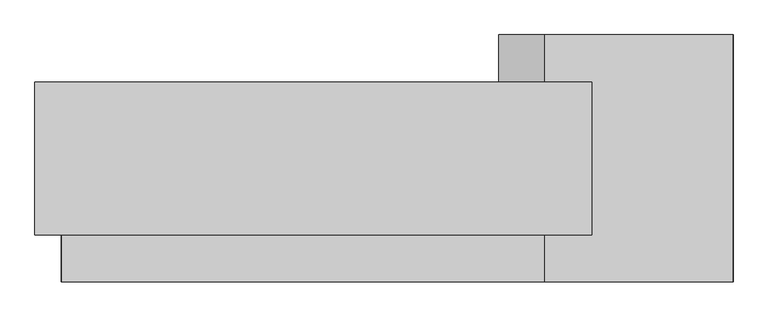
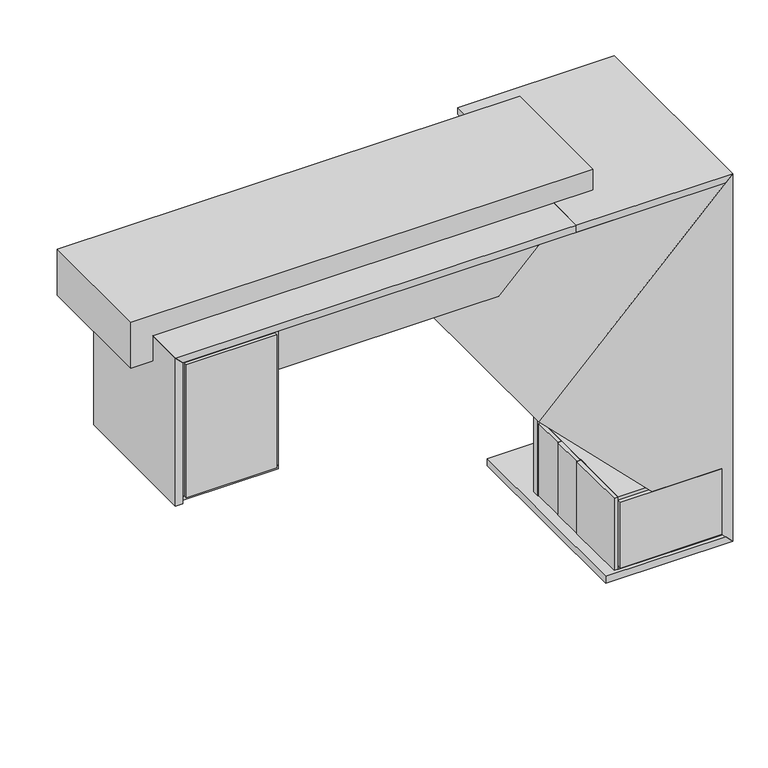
"""IFC4 building model written with IfcOpenShell, lengths in millimetres: proxy geometry, SALUTE^RECEPT 7_SHORT TRANS L-SHAPE-PARTS SOLID."""

from ifc_helpers import new_model, si_unit, frame, origin, place, context, project, spatial, polyline, outline, extrude, faceted_brep, source, transform, mapped, element, save


def generic_models_22d0e814(model_context):
    return source(origin(), model_context, "Body", "SolidModel", [
        extrude(outline(polyline([(-609.6, 698.5), (-609.6, 736.6), (-38.1, 736.6), (-38.1, 698.5), (-609.6, 698.5)])), frame((0.0, 0.0, -1981.2), z_axis=(0.0, 0.0, 1.0), x_axis=(1.0, 0.0, 0.0)), (0.0, 0.0, 1.0), 1943.1),
        faceted_brep([(-1765.3, 736.6, 0.0), (-1765.3, 736.6, -133.35), (-1733.55, 736.6, -133.35), (-1733.55, 736.6, 0.0), (-641.35, 736.6, 0.0), (-609.6, 736.6, 0.0), (-609.6, 736.6, -812.8), (-2895.6, 736.6, -812.8), (-2895.6, 736.6, 0.0), (-2857.5, 736.6, 0.0), (-2857.5, 698.5, -38.1), (-2857.5, 698.5, -812.8), (-609.6, 698.5, -812.8), (-609.6, 698.5, -38.1), (-1733.55, 831.85, 0.0), (-1733.55, 831.85, -133.35), (-1765.3, 831.85, 0.0), (-1765.3, 831.85, -133.35), (-641.35, 831.85, 0.0), (-641.35, 736.6, 0.0), (-641.35, 222.25, 0.0), (-2857.5, 222.25, 0.0), (-2857.5, 736.6, 0.0), (-2857.5, 222.25, 31.75), (-641.35, 222.25, 31.75), (-2857.5, 831.85, 0.0), (-2857.5, 831.85, 31.75), (-641.35, 831.85, 31.75)], [[[0, 1, 2, 3, 4, 5, 6, 7, 8, 9]], [[10, 11, 12, 13]], [[14, 3, 2, 15]], [[0, 16, 17, 1]], [[2, 1, 17, 15]], [[3, 14, 18, 19]], [[3, 19, 20, 21, 22, 0]], [[23, 21, 20, 24]], [[16, 0, 22, 25]], [[25, 26, 27, 18, 14, 15, 17, 16]], [[26, 23, 24, 27]], [[24, 20, 19, 18, 27]], [[25, 22, 21, 23, 26]], [[7, 11, 10, 8]], [[8, 10, 13, 5, 4, 3, 0, 9]], [[5, 13, 12, 6]], [[11, 7, 6, 12]]]),
        extrude(outline(polyline([(-587.375, 696.11875), (-587.375, 526.653125), (-606.425, 526.653125), (-606.425, 696.11875), (-587.375, 696.11875)])), frame((0.0, 0.0, -1978.81875), z_axis=(0.0, 0.0, 1.0), x_axis=(1.0, 0.0, 0.0)), (0.0, 0.0, 1.0), 395.2875),
        extrude(outline(polyline([(-38.1, 698.5), (-38.1, 19.05), (-584.2, 19.05), (-584.2, 698.5), (-38.1, 698.5)])), frame((0.0, 0.0, -1981.2), z_axis=(0.0, 0.0, 1.0), x_axis=(1.0, 0.0, 0.0)), (0.0, 0.0, 1.0), 19.05),
        extrude(outline(polyline([(-587.375, 352.425), (-587.375, 19.05), (-606.425, 19.05), (-606.425, 352.425), (-587.375, 352.425)])), frame((0.0, 0.0, -1978.81875), z_axis=(0.0, 0.0, 1.0), x_axis=(1.0, 0.0, 0.0)), (0.0, 0.0, 1.0), 395.2875),
        extrude(outline(polyline([(-2838.45, 698.5), (-2368.55, 698.5), (-2368.55, 679.45), (-2838.45, 679.45), (-2838.45, 698.5)])), frame((0.0, 0.0, -787.4), z_axis=(0.0, 0.0, 1.0), x_axis=(1.0, 0.0, 0.0)), (0.0, 0.0, 1.0), 730.25),
        extrude(outline(polyline([(-2368.55, 38.1), (-2368.55, 0.0), (-2838.45, 0.0), (-2838.45, 38.1), (-2368.55, 38.1)])), frame((0.0, 0.0, -787.4), z_axis=(0.0, 0.0, 1.0), x_axis=(1.0, 0.0, 0.0)), (0.0, 0.0, 1.0), 730.25),
        extrude(outline(polyline([(-584.2, 0.0), (-584.2, 38.1), (-57.15, 38.1), (-57.15, 0.0), (-584.2, 0.0)])), frame((0.0, 0.0, -1962.15), z_axis=(0.0, 0.0, 1.0), x_axis=(1.0, 0.0, 0.0)), (0.0, 0.0, 1.0), 361.95),
        extrude(outline(polyline([(-2838.45, 19.05), (-2857.5, 19.05), (-2857.5, 698.5), (-2838.45, 698.5), (-2838.45, 19.05)])), frame((0.0, 0.0, -787.4), z_axis=(0.0, 0.0, 1.0), x_axis=(1.0, 0.0, 0.0)), (0.0, 0.0, 1.0), 749.3),
        faceted_brep([(-2895.6, 0.0, 0.0), (-2895.6, 736.6, 0.0), (-2895.6, 736.6, -812.8), (-2895.6, 0.0, -812.8), (-2857.5, 698.5, -38.1), (-2857.5, 698.5, -812.8), (-2857.5, 0.0, -38.1), (-2857.5, 0.0, -812.8)], [[[0, 1, 2, 3]], [[1, 4, 5, 2]], [[4, 6, 7, 5]], [[6, 0, 3, 7]], [[3, 2, 5, 7]], [[4, 1, 0, 6]]]),
        extrude(outline(polyline([(-587.375, 524.271875), (-587.375, 354.80625), (-606.425, 354.80625), (-606.425, 524.271875), (-587.375, 524.271875)])), frame((0.0, 0.0, -1978.81875), z_axis=(0.0, 0.0, 1.0), x_axis=(1.0, 0.0, 0.0)), (0.0, 0.0, 1.0), 395.2875),
        extrude(outline(polyline([(0.0, -812.8), (-38.1, -812.8), (-38.1, -38.1), (0.0, 0.0), (0.0, -812.8)])), frame((0.0, 0.0, 0.0), z_axis=(0.0, 1.0, 0.0), x_axis=(0.0, 0.0, 1.0)), (0.0, 0.0, 1.0), 1066.8),
        extrude(outline(polyline([(-609.6, 863.6), (-609.6, 203.2), (-3009.9, 203.2), (-3009.9, 863.6), (-609.6, 863.6)])), frame((0.0, 0.0, -139.7), z_axis=(0.0, 0.0, 1.0), x_axis=(1.0, 0.0, 0.0)), (0.0, 0.0, 1.0), 254.0),
        extrude(outline(polyline([(-584.2, 679.45), (-584.2, 698.5), (-57.15, 698.5), (-57.15, 679.45), (-584.2, 679.45)])), frame((0.0, 0.0, -1962.15), z_axis=(0.0, 0.0, 1.0), x_axis=(1.0, 0.0, 0.0)), (0.0, 0.0, 1.0), 361.95),
        extrude(outline(polyline([(-2368.55, 19.05), (-2368.55, 698.5), (-2349.5, 698.5), (-2349.5, 19.05), (-2368.55, 19.05)])), frame((0.0, 0.0, -787.4), z_axis=(0.0, 0.0, 1.0), x_axis=(1.0, 0.0, 0.0)), (0.0, 0.0, 1.0), 749.3),
        extrude(outline(polyline([(-2351.88125, 19.05), (-2855.11875, 19.05), (-2855.11875, 696.11875), (-2351.88125, 696.11875), (-2351.88125, 19.05)])), frame((0.0, 0.0, -809.625), z_axis=(0.0, 0.0, 1.0), x_axis=(1.0, 0.0, 0.0)), (0.0, 0.0, 1.0), 19.05),
        extrude(outline(polyline([(-38.1, 698.5), (-38.1, 19.05), (-584.2, 19.05), (-584.2, 698.5), (-38.1, 698.5)])), frame((0.0, 0.0, -1600.2), z_axis=(0.0, 0.0, 1.0), x_axis=(1.0, 0.0, 0.0)), (0.0, 0.0, 1.0), 19.05),
        faceted_brep([(-2857.5, 0.0, -38.1), (-2895.6, 0.0, 0.0), (-2895.6, 736.6, 0.0), (-2857.5, 698.5, -38.1), (-609.6, 698.5, -38.1), (-609.6, 0.0, -38.1), (-609.6, 736.6, 0.0), (-609.6, 0.0, 0.0)], [[[0, 1, 2, 3]], [[0, 3, 4, 5]], [[3, 2, 6, 4]], [[7, 6, 2, 1]], [[1, 0, 5, 7]], [[7, 5, 4, 6]]]),
        extrude(outline(polyline([(-1981.2, -660.4), (-2019.3, -660.4), (-2019.3, 0.0), (-1981.2, -38.1), (-1981.2, -660.4)])), frame((0.0, 0.0, 0.0), z_axis=(0.0, 1.0, 0.0), x_axis=(0.0, 0.0, 1.0)), (0.0, 0.0, 1.0), 1066.8),
        extrude(outline(polyline([(-2838.45, 19.05), (-2838.45, 698.5), (-2368.55, 698.5), (-2368.55, 19.05), (-2838.45, 19.05)])), frame((0.0, 0.0, -57.15), z_axis=(0.0, 0.0, 1.0), x_axis=(1.0, 0.0, 0.0)), (0.0, 0.0, 1.0), 19.05),
        extrude(outline(polyline([(-1009.65, -1009.65), (-2019.3, 0.0), (0.0, 0.0), (-1009.65, -1009.65)])), frame((0.0, 0.0, 0.0), z_axis=(0.0, 1.0, 0.0), x_axis=(0.0, 0.0, 1.0)), (0.0, 0.0, 1.0), 1066.8),
    ])


if __name__ == "__main__":
    model = new_model("IFC4")
    model_context = context("Model", 3, world=origin())
    ifc_project = project(units=[si_unit("LENGTHUNIT", "METRE", prefix="MILLI")], contexts=[model_context])
    site = spatial("IfcSite", under=ifc_project)
    building = spatial("IfcBuilding", under=site)
    placement = place(None, origin())
    generic_models_shape = generic_models_22d0e814(model_context)
    element("IfcBuildingElementProxy", 1, Name="SALUTE^RECEPT 7_SHORT TRANS L-SHAPE-PARTS SOLID", ObjectType="SALUTE^RECEPT 7_SHORT TRANS L-SHAPE-PARTS SOLID", at=placement, inside=building, context=model_context, shape_type="MappedRepresentation", body=[
        mapped(generic_models_shape, transform((0.0, 0.0, 0.0), x_axis=(1.0, 0.0, 0.0), y_axis=(0.0, 1.0, 0.0), z_axis=(0.0, 0.0, 1.0))),
    ])
    save(model, "model.ifc")
